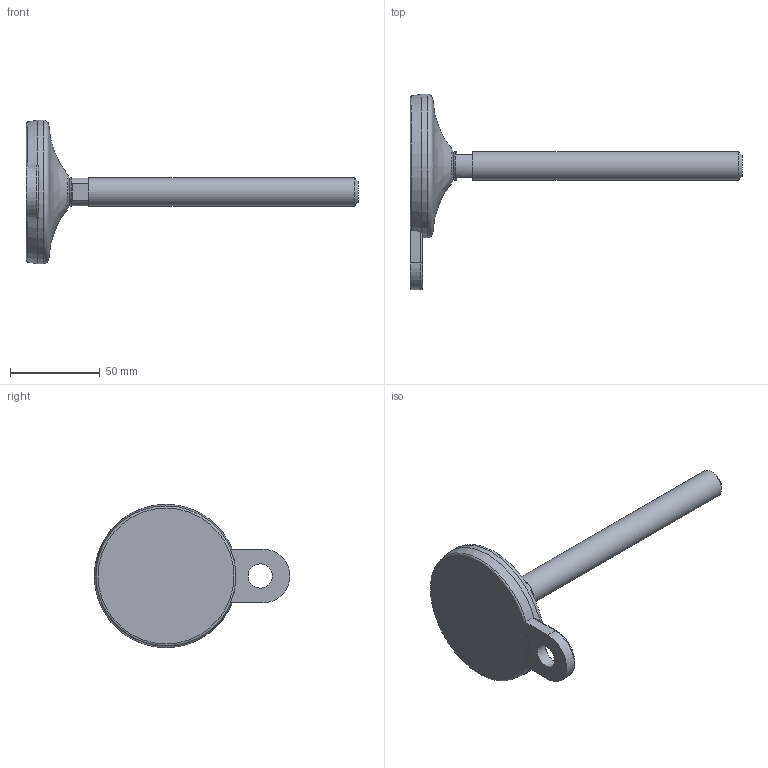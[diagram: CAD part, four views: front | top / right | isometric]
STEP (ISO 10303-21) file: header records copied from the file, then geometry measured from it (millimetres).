
FILE_DESCRIPTION(('STEP AP203'),'2;1');
FILE_NAME('25026-F.stp','2014-07-03T15:59:26',(''),(''),'2008.1.107','THINKDESIGN','');
FILE_SCHEMA(('CONFIG_CONTROL_DESIGN'));
Length unit declared in the file: millimetre
Bounding box: 185 x 109 x 80 mm (x, y, z)
Volume: 113029.4 mm3; surface area: 24046.3 mm2
Topology: 4 solids, 4 shells, 31 faces, 74 edges, 51 vertices
Faces by surface type: plane 14, bspline 9, cylinder 8
Full cylindrical faces by diameter (mm): 13.5 x1, 16 x2, 80 x1
Entity records: 1761 total; most frequent: CARTESIAN_POINT 927, DIRECTION 163, ORIENTED_EDGE 148, EDGE_CURVE 74, AXIS2_PLACEMENT_3D 69, VERTEX_POINT 51, CIRCLE 47, EDGE_LOOP 33
